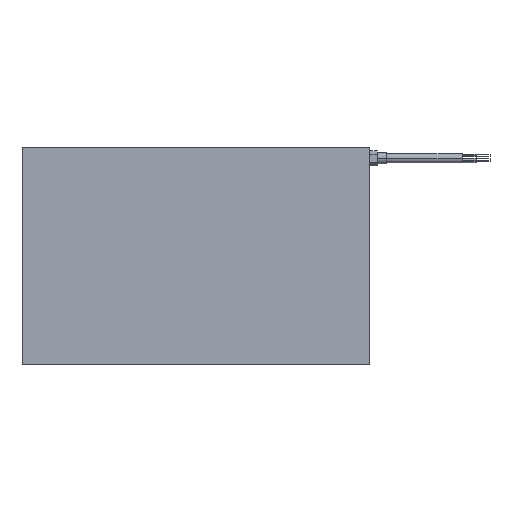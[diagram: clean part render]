
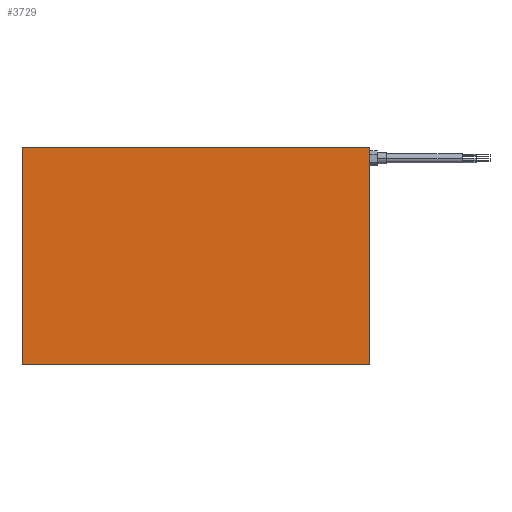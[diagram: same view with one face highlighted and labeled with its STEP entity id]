
A CAD part, front view. The second image highlights one B-rep face of the part: STEP entity #3729.
In plain terms, the highlighted planar face has unit normal (0, -1, 0).
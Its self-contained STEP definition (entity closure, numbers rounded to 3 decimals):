
#29=DIRECTION('',(0.,0.,-1.));
#30=VECTOR('',#29,235.);
#31=CARTESIAN_POINT('',(-188.1,0.,117.5));
#32=LINE('',#31,#30);
#33=DIRECTION('',(1.,0.,0.));
#34=VECTOR('',#33,376.2);
#35=CARTESIAN_POINT('',(-188.1,0.,-117.5));
#36=LINE('',#35,#34);
#37=DIRECTION('',(1.,0.,0.));
#38=VECTOR('',#37,376.2);
#39=CARTESIAN_POINT('',(-188.1,0.,117.5));
#40=LINE('',#39,#38);
#1973=DIRECTION('',(0.,0.,-1.));
#1974=VECTOR('',#1973,235.);
#1975=CARTESIAN_POINT('',(188.1,0.,117.5));
#1976=LINE('',#1975,#1974);
#2825=CARTESIAN_POINT('',(-188.1,0.,-117.5));
#2827=VERTEX_POINT('',#2825);
#2839=CARTESIAN_POINT('',(-188.1,0.,117.5));
#2840=VERTEX_POINT('',#2839);
#2841=CARTESIAN_POINT('',(188.1,0.,-117.5));
#2843=VERTEX_POINT('',#2841);
#2855=CARTESIAN_POINT('',(188.1,0.,117.5));
#2856=VERTEX_POINT('',#2855);
#3716=CARTESIAN_POINT('',(-188.1,0.,117.5));
#3717=DIRECTION('',(0.,-1.,0.));
#3718=DIRECTION('',(0.,0.,-1.));
#3719=AXIS2_PLACEMENT_3D('',#3716,#3717,#3718);
#3720=PLANE('',#3719);
#3721=ORIENTED_EDGE('',*,*,#3696,.F.);
#3723=ORIENTED_EDGE('',*,*,#3722,.T.);
#3725=ORIENTED_EDGE('',*,*,#3724,.T.);
#3726=ORIENTED_EDGE('',*,*,#3707,.F.);
#3727=EDGE_LOOP('',(#3721,#3723,#3725,#3726));
#3728=FACE_OUTER_BOUND('',#3727,.F.);
#3729=ADVANCED_FACE('',(#3728),#3720,.T.);
#3696=EDGE_CURVE('',#2840,#2827,#32,.T.);
#3707=EDGE_CURVE('',#2827,#2843,#36,.T.);
#3722=EDGE_CURVE('',#2840,#2856,#40,.T.);
#3724=EDGE_CURVE('',#2856,#2843,#1976,.T.);
